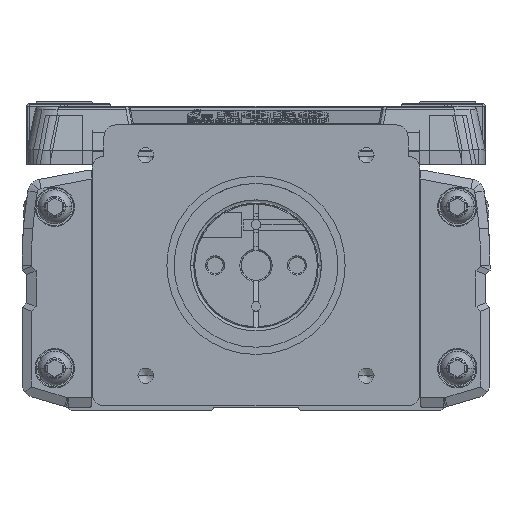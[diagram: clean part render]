
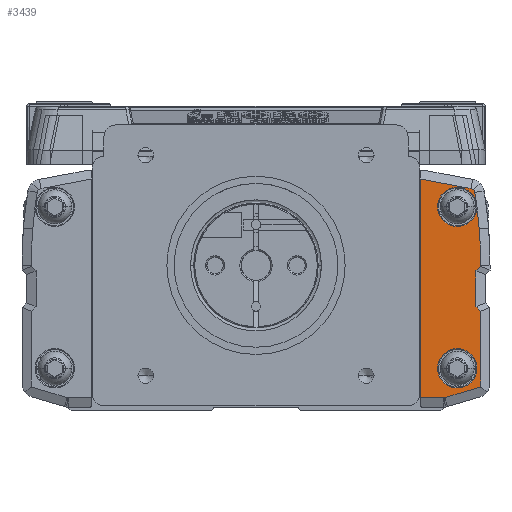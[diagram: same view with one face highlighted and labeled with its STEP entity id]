
A CAD part, left-side view. The second image highlights one B-rep face of the part: STEP entity #3439.
In plain terms, the highlighted planar face has unit normal (-1, 0, 0).
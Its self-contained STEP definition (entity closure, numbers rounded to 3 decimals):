
#3439=ADVANCED_FACE('',(#9040,#9041),#9042,.T.);
#9040=FACE_BOUND('',#17479,.T.);
#9041=FACE_OUTER_BOUND('',#17480,.T.);
#9042=PLANE('',#17481);
#17479=EDGE_LOOP('',(#27636,#27637));
#17480=EDGE_LOOP('',(#27638,#27639,#27640,#27641,#27642,#27643,#27644,#27645,#27646,#27647,#27648,#27649,#27650,#27651,#27652,#27653,#27654,#27655));
#17481=AXIS2_PLACEMENT_3D('',#27656,#27657,#27658);
#27636=ORIENTED_EDGE('',*,*,#50431,.T.);
#27637=ORIENTED_EDGE('',*,*,#50432,.T.);
#27638=ORIENTED_EDGE('',*,*,#50433,.T.);
#27639=ORIENTED_EDGE('',*,*,#50434,.T.);
#27640=ORIENTED_EDGE('',*,*,#50435,.T.);
#27641=ORIENTED_EDGE('',*,*,#50436,.T.);
#27642=ORIENTED_EDGE('',*,*,#50437,.T.);
#27643=ORIENTED_EDGE('',*,*,#50438,.T.);
#27644=ORIENTED_EDGE('',*,*,#50439,.T.);
#27645=ORIENTED_EDGE('',*,*,#50440,.T.);
#27646=ORIENTED_EDGE('',*,*,#50441,.T.);
#27647=ORIENTED_EDGE('',*,*,#49751,.T.);
#27648=ORIENTED_EDGE('',*,*,#50442,.T.);
#27649=ORIENTED_EDGE('',*,*,#50205,.T.);
#27650=ORIENTED_EDGE('',*,*,#50443,.T.);
#27651=ORIENTED_EDGE('',*,*,#50444,.T.);
#27652=ORIENTED_EDGE('',*,*,#50445,.T.);
#27653=ORIENTED_EDGE('',*,*,#50446,.T.);
#27654=ORIENTED_EDGE('',*,*,#50447,.T.);
#27655=ORIENTED_EDGE('',*,*,#50448,.T.);
#27656=CARTESIAN_POINT('',(-587.0,-41.983,-5.251));
#27657=DIRECTION('',(-1.0,0.,0.));
#27658=DIRECTION('',(0.,-1.0,0.));
#49751=EDGE_CURVE('',#59549,#59547,#59550,.T.);
#50205=EDGE_CURVE('',#60339,#60336,#60340,.T.);
#50431=EDGE_CURVE('',#60734,#60735,#60736,.T.);
#50432=EDGE_CURVE('',#60735,#60734,#60737,.T.);
#50433=EDGE_CURVE('',#60738,#60739,#60740,.T.);
#50434=EDGE_CURVE('',#60739,#60741,#60742,.T.);
#50435=EDGE_CURVE('',#60741,#60743,#60744,.T.);
#50436=EDGE_CURVE('',#60743,#60745,#60746,.T.);
#50437=EDGE_CURVE('',#60745,#60747,#60748,.T.);
#50438=EDGE_CURVE('',#60747,#60749,#60750,.T.);
#50439=EDGE_CURVE('',#60749,#60751,#60752,.T.);
#50440=EDGE_CURVE('',#60751,#60753,#60754,.T.);
#50441=EDGE_CURVE('',#60753,#59549,#60755,.T.);
#50442=EDGE_CURVE('',#59547,#60339,#60756,.T.);
#50443=EDGE_CURVE('',#60336,#60757,#60758,.T.);
#50444=EDGE_CURVE('',#60757,#60759,#60760,.T.);
#50445=EDGE_CURVE('',#60759,#60761,#60762,.T.);
#50446=EDGE_CURVE('',#60761,#60763,#60764,.T.);
#50447=EDGE_CURVE('',#60763,#60765,#60766,.T.);
#50448=EDGE_CURVE('',#60765,#60738,#60767,.T.);
#59547=VERTEX_POINT('',#73743);
#59549=VERTEX_POINT('',#73760);
#59550=CIRCLE('',#73761,4.2);
#60336=VERTEX_POINT('',#74872);
#60339=VERTEX_POINT('',#74876);
#60340=CIRCLE('',#74877,1.);
#60734=VERTEX_POINT('',#75409);
#60735=VERTEX_POINT('',#75410);
#60736=CIRCLE('',#75411,4.2);
#60737=CIRCLE('',#75412,4.2);
#60738=VERTEX_POINT('',#75413);
#60739=VERTEX_POINT('',#75414);
#60740=LINE('',#75415,#75416);
#60741=VERTEX_POINT('',#75417);
#60742=LINE('',#75418,#75419);
#60743=VERTEX_POINT('',#75420);
#60744=LINE('',#75421,#75422);
#60745=VERTEX_POINT('',#75423);
#60746=LINE('',#75424,#75425);
#60747=VERTEX_POINT('',#75426);
#60748=LINE('',#75427,#75428);
#60749=VERTEX_POINT('',#75429);
#60750=LINE('',#75430,#75431);
#60751=VERTEX_POINT('',#75432);
#60752=CIRCLE('',#75433,98.);
#60753=VERTEX_POINT('',#75434);
#60754=CIRCLE('',#75435,98.);
#60755=CIRCLE('',#75436,4.2);
#60756=CIRCLE('',#75437,98.);
#60757=VERTEX_POINT('',#75438);
#60758=CIRCLE('',#75439,1.);
#60759=VERTEX_POINT('',#75440);
#60760=LINE('',#75441,#75442);
#60761=VERTEX_POINT('',#75443);
#60762=LINE('',#75444,#75445);
#60763=VERTEX_POINT('',#75446);
#60764=LINE('',#75447,#75448);
#60765=VERTEX_POINT('',#75449);
#60766=CIRCLE('',#75450,1.);
#60767=CIRCLE('',#75451,1.);
#73743=CARTESIAN_POINT('',(-587.0,-47.05,13.612));
#73760=CARTESIAN_POINT('',(-587.0,-38.8,12.5));
#73761=AXIS2_PLACEMENT_3D('',#92390,#92391,#92392);
#74872=CARTESIAN_POINT('',(-587.0,-46.48,16.131));
#74876=CARTESIAN_POINT('',(-587.0,-46.752,15.592));
#74877=AXIS2_PLACEMENT_3D('',#93085,#93086,#93087);
#75409=CARTESIAN_POINT('',(-587.0,-38.8,-22.));
#75410=CARTESIAN_POINT('',(-587.0,-47.2,-22.));
#75411=AXIS2_PLACEMENT_3D('',#93416,#93417,#93418);
#75412=AXIS2_PLACEMENT_3D('',#93419,#93420,#93421);
#75413=CARTESIAN_POINT('',(-587.0,-40.33,-28.259));
#75414=CARTESIAN_POINT('',(-587.0,-48.,-26.004));
#75415=CARTESIAN_POINT('',(-587.0,-45.943,-26.609));
#75416=VECTOR('',#93422,10.0);
#75417=CARTESIAN_POINT('',(-587.0,-48.,-9.828));
#75418=CARTESIAN_POINT('',(-587.0,-48.,-11.189));
#75419=VECTOR('',#93423,10.0);
#75420=CARTESIAN_POINT('',(-587.0,-47.,-8.828));
#75421=CARTESIAN_POINT('',(-587.0,-45.394,-7.223));
#75422=VECTOR('',#93424,10.);
#75423=CARTESIAN_POINT('',(-587.0,-47.,-1.172));
#75424=CARTESIAN_POINT('',(-587.0,-47.,-5.126));
#75425=VECTOR('',#93425,10.0);
#75426=CARTESIAN_POINT('',(-587.0,-48.,-0.172));
#75427=CARTESIAN_POINT('',(-587.0,-45.269,-2.903));
#75428=VECTOR('',#93426,10.0);
#75429=CARTESIAN_POINT('',(-587.0,-48.,0.));
#75430=CARTESIAN_POINT('',(-587.0,-48.,-2.876));
#75431=VECTOR('',#93427,10.0);
#75432=CARTESIAN_POINT('',(-587.0,-47.687,7.821));
#75433=AXIS2_PLACEMENT_3D('',#93428,#93429,#93430);
#75434=CARTESIAN_POINT('',(-587.0,-47.2,12.496));
#75435=AXIS2_PLACEMENT_3D('',#93431,#93432,#93433);
#75436=AXIS2_PLACEMENT_3D('',#93434,#93435,#93436);
#75437=AXIS2_PLACEMENT_3D('',#93437,#93438,#93439);
#75438=CARTESIAN_POINT('',(-587.0,-45.947,16.416));
#75439=AXIS2_PLACEMENT_3D('',#93440,#93441,#93442);
#75440=CARTESIAN_POINT('',(-587.0,-35.05,18.442));
#75441=CARTESIAN_POINT('',(-587.0,-43.469,16.877));
#75442=VECTOR('',#93443,10.);
#75443=CARTESIAN_POINT('',(-587.0,-35.05,-28.3));
#75444=CARTESIAN_POINT('',(-587.0,-35.05,20.3));
#75445=VECTOR('',#93444,10.0);
#75446=CARTESIAN_POINT('',(-587.0,-40.048,-28.3));
#75447=CARTESIAN_POINT('',(-587.0,-39.766,-28.3));
#75448=VECTOR('',#93445,10.0);
#75449=CARTESIAN_POINT('',(-587.0,-40.191,-28.29));
#75450=AXIS2_PLACEMENT_3D('',#93446,#93447,#93448);
#75451=AXIS2_PLACEMENT_3D('',#93449,#93450,#93451);
#92390=CARTESIAN_POINT('',(-587.0,-43.,12.5));
#92391=DIRECTION('',(1.0,0.,0.));
#92392=DIRECTION('',(0.,-1.0,0.));
#93085=CARTESIAN_POINT('',(-587.0,-45.764,15.433));
#93086=DIRECTION('',(-1.0,0.,0.));
#93087=DIRECTION('',(0.,-0.716,0.699));
#93416=CARTESIAN_POINT('',(-587.0,-43.,-22.));
#93417=DIRECTION('',(1.0,0.,0.));
#93418=DIRECTION('',(0.,-1.0,0.));
#93419=CARTESIAN_POINT('',(-587.0,-43.,-22.));
#93420=DIRECTION('',(1.0,0.,0.));
#93421=DIRECTION('',(0.,-1.0,0.));
#93422=DIRECTION('',(0.,-0.959,0.282));
#93423=DIRECTION('',(0.,0.,1.0));
#93424=DIRECTION('',(0.,0.707,0.707));
#93425=DIRECTION('',(0.,0.,1.0));
#93426=DIRECTION('',(0.,-0.707,0.707));
#93427=DIRECTION('',(0.,0.,1.0));
#93428=CARTESIAN_POINT('',(-587.0,50.,0.));
#93429=DIRECTION('',(-1.0,0.,0.));
#93430=DIRECTION('',(0.,-0.997,0.08));
#93431=CARTESIAN_POINT('',(-587.0,50.,0.));
#93432=DIRECTION('',(-1.0,0.,0.));
#93433=DIRECTION('',(0.,-0.997,0.08));
#93434=CARTESIAN_POINT('',(-587.0,-43.,12.5));
#93435=DIRECTION('',(1.0,0.,0.));
#93436=DIRECTION('',(0.,-1.0,0.));
#93437=CARTESIAN_POINT('',(-587.0,50.,0.));
#93438=DIRECTION('',(-1.0,0.,0.));
#93439=DIRECTION('',(0.,-0.997,0.08));
#93440=CARTESIAN_POINT('',(-587.0,-45.764,15.433));
#93441=DIRECTION('',(-1.0,0.,0.));
#93442=DIRECTION('',(0.,-0.716,0.699));
#93443=DIRECTION('',(0.,0.983,0.183));
#93444=DIRECTION('',(0.,0.,-1.0));
#93445=DIRECTION('',(0.,-1.0,0.));
#93446=CARTESIAN_POINT('',(-587.0,-40.048,-27.3));
#93447=DIRECTION('',(-1.0,0.,0.));
#93448=DIRECTION('',(0.,-0.143,-0.99));
#93449=CARTESIAN_POINT('',(-587.0,-40.048,-27.3));
#93450=DIRECTION('',(-1.0,0.,0.));
#93451=DIRECTION('',(0.,-0.143,-0.99));
